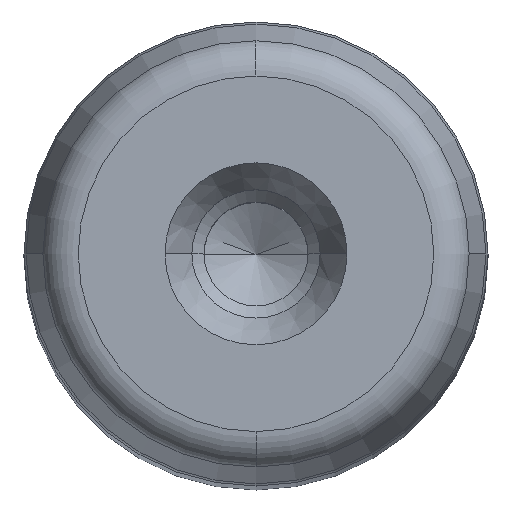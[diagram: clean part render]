
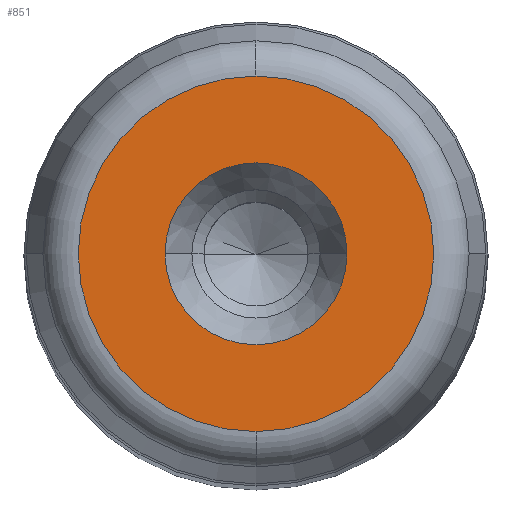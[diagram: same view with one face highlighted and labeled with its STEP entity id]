
A CAD part, top view. The second image highlights one B-rep face of the part: STEP entity #851.
In plain terms, the highlighted planar face has unit normal (0, 0, 1) as drawn and (0, 1, 0) by its records, which use the part's own axes.
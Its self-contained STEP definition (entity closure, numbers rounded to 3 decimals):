
#281=CARTESIAN_POINT('',(7.45,200.0,0.0));
#282=VERTEX_POINT('',#281);
#289=CARTESIAN_POINT('',(-7.45,200.0,0.));
#290=VERTEX_POINT('',#289);
#291=CARTESIAN_POINT('',(0.0,200.0,0.0));
#292=DIRECTION('',(0.0,1.0,0.0));
#293=DIRECTION('',(1.0,0.0,0.0));
#294=AXIS2_PLACEMENT_3D('',#291,#292,#293);
#295=CIRCLE('',#294,7.45);
#296=EDGE_CURVE('',#282,#290,#295,.T.);
#313=CARTESIAN_POINT('',(0.0,200.0,14.554));
#314=VERTEX_POINT('',#313);
#324=CARTESIAN_POINT('',(0.,200.0,-14.554));
#325=VERTEX_POINT('',#324);
#326=CARTESIAN_POINT('',(0.0,200.0,0.0));
#327=DIRECTION('',(0.0,1.0,0.0));
#328=DIRECTION('',(1.0,0.0,0.0));
#329=AXIS2_PLACEMENT_3D('',#326,#327,#328);
#330=CIRCLE('',#329,14.554);
#331=EDGE_CURVE('',#325,#314,#330,.T.);
#812=CARTESIAN_POINT('',(14.554,200.0,0.0));
#813=VERTEX_POINT('',#812);
#814=CARTESIAN_POINT('',(0.0,200.0,0.0));
#815=DIRECTION('',(0.0,1.0,0.0));
#816=DIRECTION('',(1.0,0.0,0.0));
#817=AXIS2_PLACEMENT_3D('',#814,#815,#816);
#818=CIRCLE('',#817,14.554);
#819=EDGE_CURVE('',#813,#325,#818,.T.);
#821=CARTESIAN_POINT('',(0.0,200.0,0.0));
#822=DIRECTION('',(0.0,1.0,0.0));
#823=DIRECTION('',(1.0,0.0,0.0));
#824=AXIS2_PLACEMENT_3D('',#821,#822,#823);
#825=CIRCLE('',#824,14.554);
#826=EDGE_CURVE('',#314,#813,#825,.T.);
#831=CARTESIAN_POINT('',(-16.01,200.0,-16.01));
#832=DIRECTION('',(0.0,1.0,0.0));
#833=DIRECTION('',(0.0,0.0,1.0));
#834=AXIS2_PLACEMENT_3D('',#831,#832,#833);
#835=PLANE('',#834);
#836=ORIENTED_EDGE('',*,*,#819,.T.);
#837=ORIENTED_EDGE('',*,*,#331,.T.);
#838=ORIENTED_EDGE('',*,*,#826,.T.);
#839=EDGE_LOOP('',(#836,#837,#838));
#840=FACE_OUTER_BOUND('',#839,.T.);
#841=ORIENTED_EDGE('',*,*,#296,.F.);
#842=CARTESIAN_POINT('',(0.0,200.0,0.0));
#843=DIRECTION('',(0.0,1.0,0.0));
#844=DIRECTION('',(1.0,0.0,0.0));
#845=AXIS2_PLACEMENT_3D('',#842,#843,#844);
#846=CIRCLE('',#845,7.45);
#847=EDGE_CURVE('',#290,#282,#846,.T.);
#848=ORIENTED_EDGE('',*,*,#847,.F.);
#849=EDGE_LOOP('',(#841,#848));
#850=FACE_BOUND('',#849,.T.);
#851=ADVANCED_FACE('',(#840,#850),#835,.T.);
